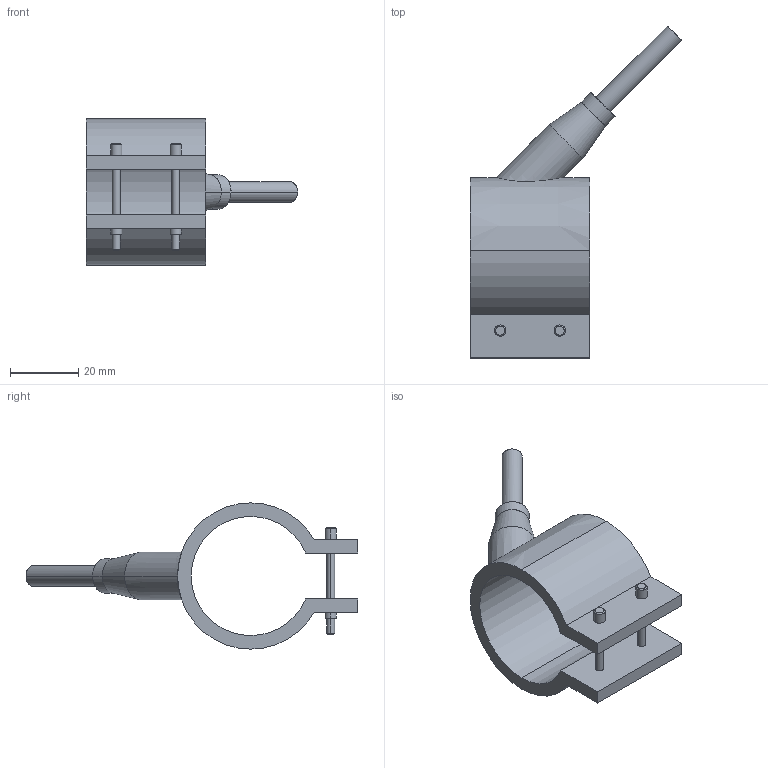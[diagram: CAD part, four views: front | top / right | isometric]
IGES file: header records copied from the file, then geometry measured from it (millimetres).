
Start section: START RECORD GO HERE.
Global section: file name: 29035035.igs; native system: DASSAULT SYSTEMES CATIA V5 R20 - www.3ds.com; preprocessor: CATIA Version 5 Release 20 ; author: Utente; organization: NB04-ASUS; date: 20210327.100146; units: millimetre
Bounding box: 62.05 x 97.55 x 43 mm (x, y, z)
Surface area: 12645.4 mm2 (no closed solid volume)
Topology: 0 solids, 0 shells, 54 faces, 246 edges, 246 vertices
Faces by surface type: revolution 38, plane 16
